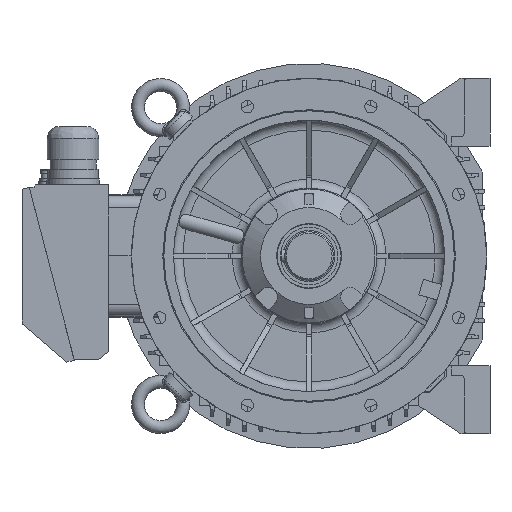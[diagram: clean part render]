
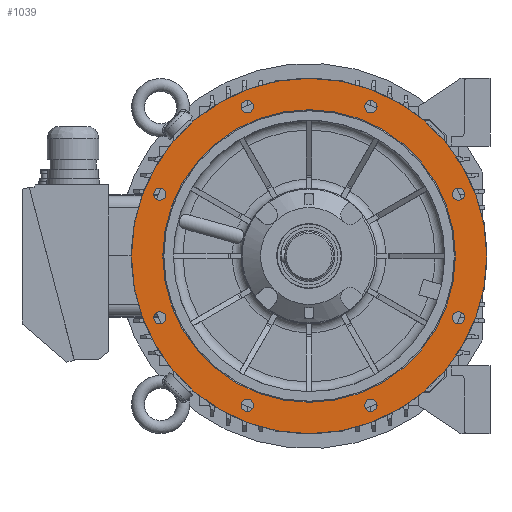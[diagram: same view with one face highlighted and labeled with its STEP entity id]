
A CAD part, front view. The second image highlights one B-rep face of the part: STEP entity #1039.
In plain terms, the highlighted planar face has unit normal (0, -1, 0).
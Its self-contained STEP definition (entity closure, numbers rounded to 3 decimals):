
#1039 = ADVANCED_FACE( '', ( #3113, #3114, #3115, #3116, #3117, #3118, #3119, #3120, #3121, #3122 ), #3123, .F. );
#3113 = FACE_BOUND( '', #10539, .T. );
#3114 = FACE_BOUND( '', #10540, .T. );
#3115 = FACE_BOUND( '', #10541, .T. );
#3116 = FACE_BOUND( '', #10542, .T. );
#3117 = FACE_BOUND( '', #10543, .T. );
#3118 = FACE_OUTER_BOUND( '', #10544, .T. );
#3119 = FACE_BOUND( '', #10545, .T. );
#3120 = FACE_BOUND( '', #10546, .T. );
#3121 = FACE_BOUND( '', #10547, .T. );
#3122 = FACE_BOUND( '', #10548, .T. );
#3123 = PLANE( '', #10549 );
#10539 = EDGE_LOOP( '', ( #17931 ) );
#10540 = EDGE_LOOP( '', ( #17932 ) );
#10541 = EDGE_LOOP( '', ( #17933 ) );
#10542 = EDGE_LOOP( '', ( #17934 ) );
#10543 = EDGE_LOOP( '', ( #17935 ) );
#10544 = EDGE_LOOP( '', ( #17936 ) );
#10545 = EDGE_LOOP( '', ( #17937 ) );
#10546 = EDGE_LOOP( '', ( #17938 ) );
#10547 = EDGE_LOOP( '', ( #17939 ) );
#10548 = EDGE_LOOP( '', ( #17940 ) );
#10549 = AXIS2_PLACEMENT_3D( '', #17941, #17942, #17943 );
#17931 = ORIENTED_EDGE( '', *, *, #22806, .F. );
#17932 = ORIENTED_EDGE( '', *, *, #22807, .F. );
#17933 = ORIENTED_EDGE( '', *, *, #22808, .F. );
#17934 = ORIENTED_EDGE( '', *, *, #22809, .F. );
#17935 = ORIENTED_EDGE( '', *, *, #22810, .F. );
#17936 = ORIENTED_EDGE( '', *, *, #22811, .T. );
#17937 = ORIENTED_EDGE( '', *, *, #22812, .F. );
#17938 = ORIENTED_EDGE( '', *, *, #22813, .F. );
#17939 = ORIENTED_EDGE( '', *, *, #22814, .F. );
#17940 = ORIENTED_EDGE( '', *, *, #22815, .F. );
#17941 = CARTESIAN_POINT( '', ( -226.4, -95.997, 0. ) );
#17942 = DIRECTION( '', ( 0., 1., 0. ) );
#17943 = DIRECTION( '', ( -1., 0., 0. ) );
#22806 = EDGE_CURVE( '', #27374, #27374, #27375, .F. );
#22807 = EDGE_CURVE( '', #27376, #27376, #27377, .F. );
#22808 = EDGE_CURVE( '', #27378, #27378, #27379, .F. );
#22809 = EDGE_CURVE( '', #27380, #27380, #27381, .F. );
#22810 = EDGE_CURVE( '', #27382, #27382, #27383, .T. );
#22811 = EDGE_CURVE( '', #27384, #27384, #27385, .T. );
#22812 = EDGE_CURVE( '', #27386, #27386, #27387, .F. );
#22813 = EDGE_CURVE( '', #27388, #27388, #27389, .F. );
#22814 = EDGE_CURVE( '', #27390, #27390, #27391, .F. );
#22815 = EDGE_CURVE( '', #27392, #27392, #27393, .F. );
#27374 = VERTEX_POINT( '', #39354 );
#27375 = CIRCLE( '', #39355, 9.5 );
#27376 = VERTEX_POINT( '', #39356 );
#27377 = CIRCLE( '', #39357, 9.5 );
#27378 = VERTEX_POINT( '', #39358 );
#27379 = CIRCLE( '', #39359, 9.5 );
#27380 = VERTEX_POINT( '', #39360 );
#27381 = CIRCLE( '', #39361, 9.5 );
#27382 = VERTEX_POINT( '', #39362 );
#27383 = CIRCLE( '', #39363, 226.4 );
#27384 = VERTEX_POINT( '', #39364 );
#27385 = CIRCLE( '', #39365, 275. );
#27386 = VERTEX_POINT( '', #39366 );
#27387 = CIRCLE( '', #39367, 9.5 );
#27388 = VERTEX_POINT( '', #39368 );
#27389 = CIRCLE( '', #39369, 9.5 );
#27390 = VERTEX_POINT( '', #39370 );
#27391 = CIRCLE( '', #39371, 9.5 );
#27392 = VERTEX_POINT( '', #39372 );
#27393 = CIRCLE( '', #39373, 9.5 );
#39354 = CARTESIAN_POINT( '', ( 221.47, -95.997, 95.671 ) );
#39355 = AXIS2_PLACEMENT_3D( '', #46521, #46522, #46523 );
#39356 = CARTESIAN_POINT( '', ( 86.171, -95.997, -230.97 ) );
#39357 = AXIS2_PLACEMENT_3D( '', #46524, #46525, #46526 );
#39358 = CARTESIAN_POINT( '', ( -240.47, -95.997, -95.671 ) );
#39359 = AXIS2_PLACEMENT_3D( '', #46527, #46528, #46529 );
#39360 = CARTESIAN_POINT( '', ( -105.171, -95.997, 230.97 ) );
#39361 = AXIS2_PLACEMENT_3D( '', #46530, #46531, #46532 );
#39362 = CARTESIAN_POINT( '', ( 226.4, -95.997, 0. ) );
#39363 = AXIS2_PLACEMENT_3D( '', #46533, #46534, #46535 );
#39364 = CARTESIAN_POINT( '', ( 275., -95.997, 0. ) );
#39365 = AXIS2_PLACEMENT_3D( '', #46536, #46537, #46538 );
#39366 = CARTESIAN_POINT( '', ( -240.47, -95.997, 95.671 ) );
#39367 = AXIS2_PLACEMENT_3D( '', #46539, #46540, #46541 );
#39368 = CARTESIAN_POINT( '', ( -105.171, -95.997, -230.97 ) );
#39369 = AXIS2_PLACEMENT_3D( '', #46542, #46543, #46544 );
#39370 = CARTESIAN_POINT( '', ( 221.47, -95.997, -95.671 ) );
#39371 = AXIS2_PLACEMENT_3D( '', #46545, #46546, #46547 );
#39372 = CARTESIAN_POINT( '', ( 86.171, -95.997, 230.97 ) );
#39373 = AXIS2_PLACEMENT_3D( '', #46548, #46549, #46550 );
#46521 = CARTESIAN_POINT( '', ( 230.97, -95.997, 95.671 ) );
#46522 = DIRECTION( '', ( 0., 1., 0. ) );
#46523 = DIRECTION( '', ( -1., 0., 0. ) );
#46524 = CARTESIAN_POINT( '', ( 95.671, -95.997, -230.97 ) );
#46525 = DIRECTION( '', ( 0., 1., 0. ) );
#46526 = DIRECTION( '', ( -1., 0., 0. ) );
#46527 = CARTESIAN_POINT( '', ( -230.97, -95.997, -95.671 ) );
#46528 = DIRECTION( '', ( 0., 1., 0. ) );
#46529 = DIRECTION( '', ( -1., 0., 0. ) );
#46530 = CARTESIAN_POINT( '', ( -95.671, -95.997, 230.97 ) );
#46531 = DIRECTION( '', ( 0., 1., 0. ) );
#46532 = DIRECTION( '', ( -1., 0., 0. ) );
#46533 = CARTESIAN_POINT( '', ( 0., -95.997, 0. ) );
#46534 = DIRECTION( '', ( 0., -1., 0. ) );
#46535 = DIRECTION( '', ( 1., 0., 0. ) );
#46536 = CARTESIAN_POINT( '', ( 0., -95.997, 0. ) );
#46537 = DIRECTION( '', ( 0., -1., 0. ) );
#46538 = DIRECTION( '', ( 1., 0., 0. ) );
#46539 = CARTESIAN_POINT( '', ( -230.97, -95.997, 95.671 ) );
#46540 = DIRECTION( '', ( 0., 1., 0. ) );
#46541 = DIRECTION( '', ( -1., 0., 0. ) );
#46542 = CARTESIAN_POINT( '', ( -95.671, -95.997, -230.97 ) );
#46543 = DIRECTION( '', ( 0., 1., 0. ) );
#46544 = DIRECTION( '', ( -1., 0., 0. ) );
#46545 = CARTESIAN_POINT( '', ( 230.97, -95.997, -95.671 ) );
#46546 = DIRECTION( '', ( 0., 1., 0. ) );
#46547 = DIRECTION( '', ( -1., 0., 0. ) );
#46548 = CARTESIAN_POINT( '', ( 95.671, -95.997, 230.97 ) );
#46549 = DIRECTION( '', ( 0., 1., 0. ) );
#46550 = DIRECTION( '', ( -1., 0., 0. ) );
